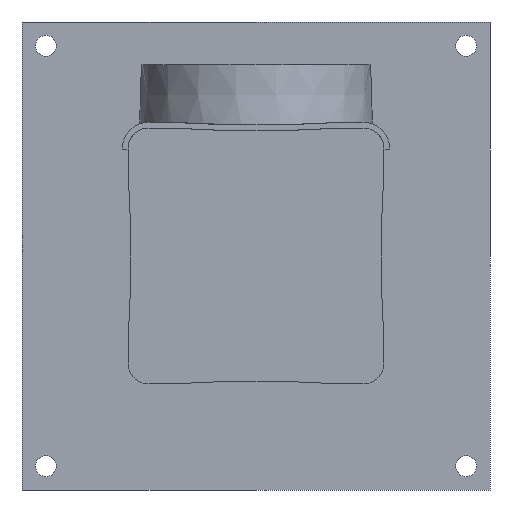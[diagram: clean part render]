
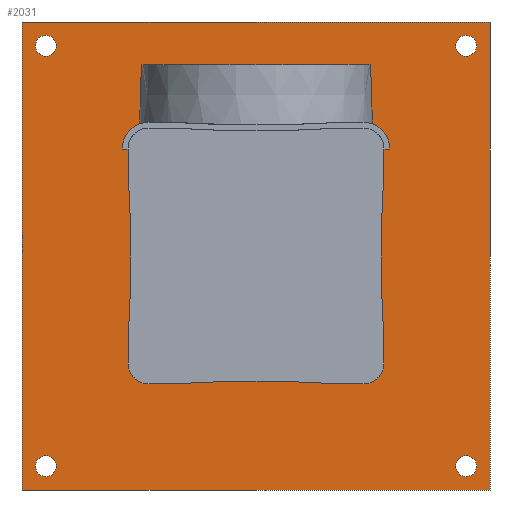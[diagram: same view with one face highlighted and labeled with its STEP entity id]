
A CAD part, front view. The second image highlights one B-rep face of the part: STEP entity #2031.
In plain terms, the highlighted planar face has unit normal (0, -1, 0) as drawn and (0, 0, -1) by its records, which use the part's own axes.
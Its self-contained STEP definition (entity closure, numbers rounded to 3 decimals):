
#1784=DIRECTION('',(0.,1.,0.));
#1785=VECTOR('',#1784,245.);
#1786=CARTESIAN_POINT('',(122.5,-122.5,0.));
#1787=LINE('',#1786,#1785);
#1788=DIRECTION('',(-1.,0.,0.));
#1789=VECTOR('',#1788,245.);
#1790=CARTESIAN_POINT('',(122.5,122.5,0.));
#1791=LINE('',#1790,#1789);
#1792=DIRECTION('',(0.,-1.,0.));
#1793=VECTOR('',#1792,245.);
#1794=CARTESIAN_POINT('',(-122.5,122.5,0.));
#1795=LINE('',#1794,#1793);
#1796=DIRECTION('',(1.,0.,0.));
#1797=VECTOR('',#1796,245.);
#1798=CARTESIAN_POINT('',(-122.5,-122.5,0.));
#1799=LINE('',#1798,#1797);
#1800=CARTESIAN_POINT('',(110.,-110.,0.));
#1801=DIRECTION('',(0.,0.,-1.));
#1802=DIRECTION('',(-1.,0.,0.));
#1803=AXIS2_PLACEMENT_3D('',#1800,#1801,#1802);
#1805=CARTESIAN_POINT('',(110.,-110.,0.));
#1806=DIRECTION('',(0.,0.,-1.));
#1807=DIRECTION('',(1.,0.,0.));
#1808=AXIS2_PLACEMENT_3D('',#1805,#1806,#1807);
#1810=CARTESIAN_POINT('',(110.,110.,0.));
#1811=DIRECTION('',(0.,0.,-1.));
#1812=DIRECTION('',(-1.,0.,0.));
#1813=AXIS2_PLACEMENT_3D('',#1810,#1811,#1812);
#1815=CARTESIAN_POINT('',(110.,110.,0.));
#1816=DIRECTION('',(0.,0.,-1.));
#1817=DIRECTION('',(1.,0.,0.));
#1818=AXIS2_PLACEMENT_3D('',#1815,#1816,#1817);
#1820=CARTESIAN_POINT('',(-110.,-110.,0.));
#1821=DIRECTION('',(0.,0.,-1.));
#1822=DIRECTION('',(-1.,0.,0.));
#1823=AXIS2_PLACEMENT_3D('',#1820,#1821,#1822);
#1825=CARTESIAN_POINT('',(-110.,-110.,0.));
#1826=DIRECTION('',(0.,0.,-1.));
#1827=DIRECTION('',(1.,0.,0.));
#1828=AXIS2_PLACEMENT_3D('',#1825,#1826,#1827);
#1830=CARTESIAN_POINT('',(-110.,110.,0.));
#1831=DIRECTION('',(0.,0.,-1.));
#1832=DIRECTION('',(-1.,0.,0.));
#1833=AXIS2_PLACEMENT_3D('',#1830,#1831,#1832);
#1835=CARTESIAN_POINT('',(-110.,110.,0.));
#1836=DIRECTION('',(0.,0.,-1.));
#1837=DIRECTION('',(1.,0.,0.));
#1838=AXIS2_PLACEMENT_3D('',#1835,#1836,#1837);
#1944=CARTESIAN_POINT('',(122.5,-122.5,0.));
#1945=CARTESIAN_POINT('',(122.5,122.5,0.));
#1946=VERTEX_POINT('',#1944);
#1947=VERTEX_POINT('',#1945);
#1948=CARTESIAN_POINT('',(-122.5,122.5,0.));
#1949=VERTEX_POINT('',#1948);
#1950=CARTESIAN_POINT('',(-122.5,-122.5,0.));
#1951=VERTEX_POINT('',#1950);
#1960=CARTESIAN_POINT('',(104.5,-110.,0.));
#1961=CARTESIAN_POINT('',(115.5,-110.,0.));
#1962=VERTEX_POINT('',#1960);
#1963=VERTEX_POINT('',#1961);
#1968=CARTESIAN_POINT('',(104.5,110.,0.));
#1969=CARTESIAN_POINT('',(115.5,110.,0.));
#1970=VERTEX_POINT('',#1968);
#1971=VERTEX_POINT('',#1969);
#1976=CARTESIAN_POINT('',(-115.5,-110.,0.));
#1977=CARTESIAN_POINT('',(-104.5,-110.,0.));
#1978=VERTEX_POINT('',#1976);
#1979=VERTEX_POINT('',#1977);
#1984=CARTESIAN_POINT('',(-115.5,110.,0.));
#1985=CARTESIAN_POINT('',(-104.5,110.,0.));
#1986=VERTEX_POINT('',#1984);
#1987=VERTEX_POINT('',#1985);
#1992=CARTESIAN_POINT('',(0.,0.,0.));
#1993=DIRECTION('',(0.,0.,1.));
#1994=DIRECTION('',(1.,0.,0.));
#1995=AXIS2_PLACEMENT_3D('',#1992,#1993,#1994);
#1996=PLANE('',#1995);
#1998=ORIENTED_EDGE('',*,*,#1997,.T.);
#2000=ORIENTED_EDGE('',*,*,#1999,.T.);
#2002=ORIENTED_EDGE('',*,*,#2001,.T.);
#2004=ORIENTED_EDGE('',*,*,#2003,.T.);
#2005=EDGE_LOOP('',(#1998,#2000,#2002,#2004));
#2006=FACE_OUTER_BOUND('',#2005,.F.);
#2008=ORIENTED_EDGE('',*,*,#2007,.T.);
#2010=ORIENTED_EDGE('',*,*,#2009,.T.);
#2011=EDGE_LOOP('',(#2008,#2010));
#2012=FACE_BOUND('',#2011,.F.);
#2014=ORIENTED_EDGE('',*,*,#2013,.T.);
#2016=ORIENTED_EDGE('',*,*,#2015,.T.);
#2017=EDGE_LOOP('',(#2014,#2016));
#2018=FACE_BOUND('',#2017,.F.);
#2020=ORIENTED_EDGE('',*,*,#2019,.T.);
#2022=ORIENTED_EDGE('',*,*,#2021,.T.);
#2023=EDGE_LOOP('',(#2020,#2022));
#2024=FACE_BOUND('',#2023,.F.);
#2026=ORIENTED_EDGE('',*,*,#2025,.T.);
#2028=ORIENTED_EDGE('',*,*,#2027,.T.);
#2029=EDGE_LOOP('',(#2026,#2028));
#2030=FACE_BOUND('',#2029,.F.);
#1804=CIRCLE('',#1803,5.5);
#1809=CIRCLE('',#1808,5.5);
#1814=CIRCLE('',#1813,5.5);
#1819=CIRCLE('',#1818,5.5);
#1824=CIRCLE('',#1823,5.5);
#1829=CIRCLE('',#1828,5.5);
#1834=CIRCLE('',#1833,5.5);
#1839=CIRCLE('',#1838,5.5);
#1997=EDGE_CURVE('',#1946,#1947,#1787,.T.);
#1999=EDGE_CURVE('',#1947,#1949,#1791,.T.);
#2001=EDGE_CURVE('',#1949,#1951,#1795,.T.);
#2003=EDGE_CURVE('',#1951,#1946,#1799,.T.);
#2007=EDGE_CURVE('',#1962,#1963,#1804,.T.);
#2009=EDGE_CURVE('',#1963,#1962,#1809,.T.);
#2013=EDGE_CURVE('',#1970,#1971,#1814,.T.);
#2015=EDGE_CURVE('',#1971,#1970,#1819,.T.);
#2019=EDGE_CURVE('',#1978,#1979,#1824,.T.);
#2021=EDGE_CURVE('',#1979,#1978,#1829,.T.);
#2025=EDGE_CURVE('',#1986,#1987,#1834,.T.);
#2027=EDGE_CURVE('',#1987,#1986,#1839,.T.);
#2031=ADVANCED_FACE('',(#2006,#2012,#2018,#2024,#2030),#1996,.F.);
